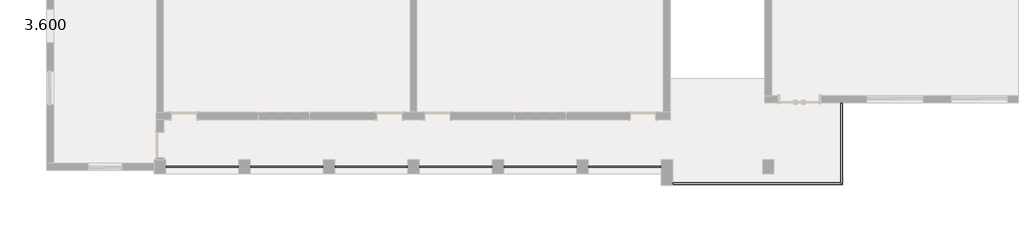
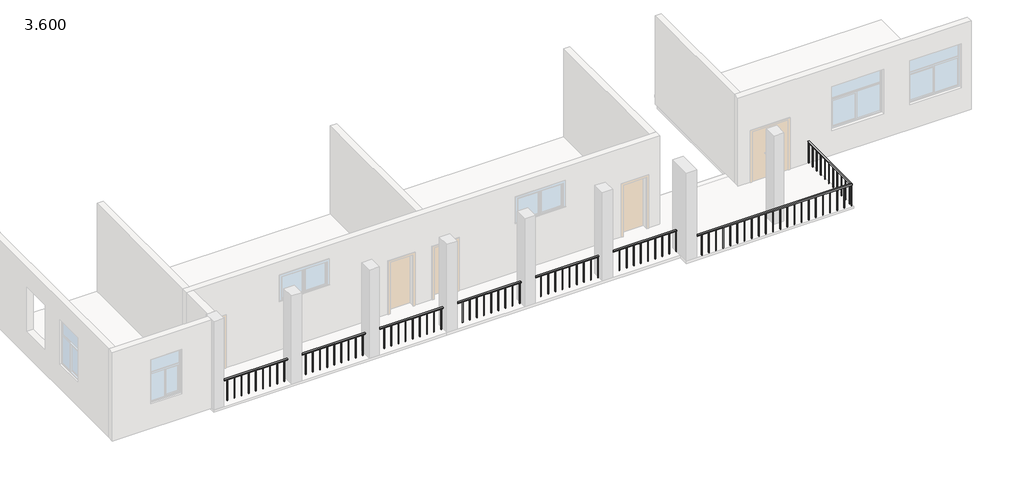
# One storey, part 2 of 2: 2 railings.
"""IFC4 building model written with IfcOpenShell, lengths in millimetres."""

import ifcopenshell
import ifcopenshell.guid

model = None  # the IFC model being written
_history = None  # IfcOwnerHistory: only IFC2X3 demands one
_inside = {}  # id of a spatial element -> (the spatial element, [elements in it])
_under = {}  # id of a project, library or spatial element -> (it, [spatial elements below it])
_declared = {}  # id of a project -> (the project, [libraries it declares])
_typed = {}  # id of a type object -> (the type object, [elements of that type])
_made_of = {}  # id of a material, layer set ... -> (it, [elements and type objects made of it])


def new_model(schema):
    """Start an empty IFC model of exactly this schema.

    Asked for "IFC4X3", IfcOpenShell would pick the latest addendum, in which some entities
    have other attributes; the version numbers below select the first issue.
    IFC2X3 requires an IfcOwnerHistory on every rooted entity: one is made here for all.
    """
    global model, _history
    if schema == "IFC4X3":
        model = ifcopenshell.file(schema_version=(4, 3, 0, 0))
    else:
        model = ifcopenshell.file(schema=schema)
    _inside.clear()
    _under.clear()
    _declared.clear()
    _typed.clear()
    _made_of.clear()
    _history = None
    if model.schema == "IFC2X3":
        org = make("IfcOrganization", Name="unknown")
        user = make(
            "IfcPersonAndOrganization",
            ThePerson=make("IfcPerson", FamilyName="unknown"),
            TheOrganization=org,
        )
        app = make(
            "IfcApplication",
            ApplicationDeveloper=org,
            Version="unknown",
            ApplicationFullName="unknown",
            ApplicationIdentifier="unknown",
        )
        _history = make(
            "IfcOwnerHistory",
            OwningUser=user,
            OwningApplication=app,
            ChangeAction="ADDED",
            CreationDate=0,
        )
    return model


def make(cls, **values):
    """One entity of the class cls with the attributes given. An attribute that is None is left unset."""
    return model.create_entity(
        cls, **{name: value for name, value in values.items() if value is not None}
    )


def rooted(cls, **values):
    """An entity with a GlobalId (a new one), such as an element, a storey or a relation."""
    return make(cls, GlobalId=ifcopenshell.guid.new(), OwnerHistory=_history, **values)


def si_unit(unit_type, name, prefix=None):
    """IfcSIUnit, for example si_unit("LENGTHUNIT", "METRE", prefix="MILLI")."""
    return make("IfcSIUnit", UnitType=unit_type, Prefix=prefix, Name=name)


def assignment(units):
    """IfcUnitAssignment: the units of a project."""
    return None if units is None else make("IfcUnitAssignment", Units=units)


def point(xyz):
    """IfcCartesianPoint."""
    return None if xyz is None else make("IfcCartesianPoint", Coordinates=xyz)


def direction(xyz):
    """IfcDirection."""
    return None if xyz is None else make("IfcDirection", DirectionRatios=xyz)


def frame(location, z_axis=None, x_axis=None):
    """IfcAxis2Placement3D, a coordinate frame: its origin and axes. An axis left out is left unset."""
    return make(
        "IfcAxis2Placement3D",
        Location=point(location),
        Axis=direction(z_axis),
        RefDirection=direction(x_axis),
    )


def origin():
    """The frame at (0, 0, 0) with its axes left unset."""
    return frame((0.0, 0.0, 0.0))


def place(relative_to, where):
    """IfcLocalPlacement: puts the frame where relative to a parent placement (None: the world)."""
    return make(
        "IfcLocalPlacement", PlacementRelTo=relative_to, RelativePlacement=where
    )


def context(
    kind, dimensions, precision=None, world=None, true_north=None, identifier=None
):
    """IfcGeometricRepresentationContext, for example the 3D "Model" context."""
    return make(
        "IfcGeometricRepresentationContext",
        ContextIdentifier=identifier,
        ContextType=kind,
        CoordinateSpaceDimension=dimensions,
        Precision=precision,
        WorldCoordinateSystem=world,
        TrueNorth=true_north,
    )


def project(units=None, contexts=None):
    """IfcProject with its units and contexts."""
    return rooted(
        "IfcProject",
        Name="project",
        RepresentationContexts=contexts,
        UnitsInContext=assignment(units),
    )


def spatial(cls, under=None, at=None, **own):
    """A site, building, storey or space (cls), placed at a placement, below another one or the project."""
    s = rooted(cls, ObjectPlacement=at, **own)
    if under is not None:
        _under.setdefault(under.id(), (under, []))[1].append(s)
    return s


def polyline(points):
    """IfcPolyline through the points."""
    return make("IfcPolyline", Points=[point(p) for p in points])


def outline(outer, holes=None, kind="AREA"):
    """IfcArbitraryClosedProfileDef: a profile drawn as a closed curve; with holes, ...WithVoids."""
    if holes is None:
        return make("IfcArbitraryClosedProfileDef", ProfileType=kind, OuterCurve=outer)
    return make(
        "IfcArbitraryProfileDefWithVoids",
        ProfileType=kind,
        OuterCurve=outer,
        InnerCurves=holes,
    )


def extrude(swept, where, along, depth):
    """IfcExtrudedAreaSolid: the profile swept, set in the frame where, extruded along a direction by depth."""
    return make(
        "IfcExtrudedAreaSolid",
        SweptArea=swept,
        Position=where,
        ExtrudedDirection=direction(along),
        Depth=depth,
    )


def faces_of(points, faces, orient=None, outer=None):
    """IfcFace entities. A face is a list of loops; a loop is a list of indices into points, from 0.

    orient and outer hold one flag for each loop. By default every Orientation is true, the
    first loop of a face is its IfcFaceOuterBound and the others are IfcFaceBound.
    """
    made = []
    for i, loops in enumerate(faces):
        bounds = []
        for j, loop in enumerate(loops):
            is_outer = j == 0 if outer is None else outer[i][j]
            bounds.append(
                make(
                    "IfcFaceOuterBound" if is_outer else "IfcFaceBound",
                    Bound=make("IfcPolyLoop", Polygon=[points[k] for k in loop]),
                    Orientation=True if orient is None else orient[i][j],
                )
            )
        made.append(make("IfcFace", Bounds=bounds))
    return made


def faceted_brep(points, faces, orient=None, outer=None, voids=None):
    """IfcFacetedBrep: a solid bounded by flat faces; with voids (closed shells), ...WithVoids."""
    shared = [point(p) for p in points]
    hull = make("IfcClosedShell", CfsFaces=faces_of(shared, faces, orient, outer))
    if voids is None:
        return make("IfcFacetedBrep", Outer=hull)
    return make(
        "IfcFacetedBrepWithVoids",
        Outer=hull,
        Voids=[
            make(cls, CfsFaces=faces_of(shared, fs, o, b)) for cls, fs, o, b in voids
        ],
    )


def shape(context_of_items, identifier, shape_type, items):
    """IfcShapeRepresentation: the items that make up one representation, for example the "Body"."""
    return make(
        "IfcShapeRepresentation",
        ContextOfItems=context_of_items,
        RepresentationIdentifier=identifier,
        RepresentationType=shape_type,
        Items=items,
    )


def made_of(thing, what):
    """Note that an element or type object is made of a material, layer set ...; save() writes the relation."""
    if what is not None:
        _made_of.setdefault(what.id(), (what, []))[1].append(thing)
    return thing


def element(
    cls,
    number,
    at=None,
    inside=None,
    cuts=None,
    type_object=None,
    material=None,
    context=None,
    identifier="Body",
    shape_type=None,
    held_by="IfcProductDefinitionShape",
    body=None,
    shapes=None,
    **own,
):
    """One element of the class cls, such as IfcWall. Its Tag is "e" and its number.

    at: its placement. inside: the storey or other place that contains it. cuts: it is an
    opening in that element (IfcRelVoidsElement). A single representation is given by context,
    identifier, shape_type and body (its items); several are given by shapes. held_by: the class
    of the entity that holds the representations. save() writes the other relations.
    """
    e = rooted(cls, Tag="e%d" % number, ObjectPlacement=at, **own)
    if body is not None:
        shapes = [shape(context, identifier, shape_type, body)]
    if shapes is not None:
        e.Representation = make(held_by, Representations=shapes)
    if inside is not None:
        _inside.setdefault(inside.id(), (inside, []))[1].append(e)
    if cuts is not None:
        rooted(
            "IfcRelVoidsElement", RelatingBuildingElement=cuts, RelatedOpeningElement=e
        )
    if type_object is not None:
        _typed.setdefault(type_object.id(), (type_object, []))[1].append(e)
    return made_of(e, material)


def aggregate(whole, parts):
    """IfcRelAggregates: a whole, such as a stair, and the parts it consists of."""
    return rooted("IfcRelAggregates", RelatingObject=whole, RelatedObjects=parts)


def save(model, path):
    """Write the relations noted so far, then the file.

    IfcRelAggregates (storeys below a building ...), IfcRelContainedInSpatialStructure (elements
    in a storey), IfcRelDefinesByType, IfcRelAssociatesMaterial and IfcRelDeclares: one each for
    every whole, place, type object, material and project.
    """
    for whole, parts in _under.values():
        aggregate(whole, parts)
    for where, things in _inside.values():
        rooted(
            "IfcRelContainedInSpatialStructure",
            RelatedElements=things,
            RelatingStructure=where,
        )
    for kind, things in _typed.values():
        rooted("IfcRelDefinesByType", RelatedObjects=things, RelatingType=kind)
    for what, things in _made_of.values():
        rooted("IfcRelAssociatesMaterial", RelatedObjects=things, RelatingMaterial=what)
    for by, libraries in _declared.values():
        rooted("IfcRelDeclares", RelatingContext=by, RelatedDefinitions=libraries)
    model.write(path)


model = new_model("IFC4")

# Units and contexts
model_context = context("Model", 3, world=origin())
ifc_project = project(units=[si_unit("LENGTHUNIT", "METRE", prefix="MILLI")], contexts=[model_context])

# Site, building, storey
site = spatial("IfcSite", under=ifc_project)
building = spatial("IfcBuilding", under=site)
storey = spatial("IfcBuildingStorey", under=building, Name="3.600", Elevation=3600.0)

# Railings
placement = place(None, origin())
element("IfcRailing", 1, ObjectType="900mm", at=placement, inside=storey, context=model_context, shape_type="SweptSolid", body=[
    extrude(outline(polyline([(-19259.1214542, -25963.2373497), (-19259.1214542, -25913.2373497), (-1659.1214542, -25913.2373497), (-1659.1214542, -25963.2373497), (-19259.1214542, -25963.2373497)])), frame((0.0, 0.0, 4450.0), z_axis=(0.0, 0.0, 1.0), x_axis=(1.0, 0.0, 0.0)), (0.0, 0.0, 1.0), 50.0),
    extrude(outline(polyline([(-1944.1214542, -25948.2373497), (-1944.1214542, -25928.2373497), (-1924.1214542, -25928.2373497), (-1924.1214542, -25948.2373497), (-1944.1214542, -25948.2373497)])), frame((0.0, 0.0, 3600.0), z_axis=(0.0, 0.0, 1.0), x_axis=(1.0, 0.0, 0.0)), (0.0, 0.0, 1.0), 850.0),
    extrude(outline(polyline([(-2219.1214542, -25948.2373497), (-2219.1214542, -25928.2373497), (-2199.1214542, -25928.2373497), (-2199.1214542, -25948.2373497), (-2219.1214542, -25948.2373497)])), frame((0.0, 0.0, 3600.0), z_axis=(0.0, 0.0, 1.0), x_axis=(1.0, 0.0, 0.0)), (0.0, 0.0, 1.0), 850.0),
    extrude(outline(polyline([(-2494.1214542, -25948.2373497), (-2494.1214542, -25928.2373497), (-2474.1214542, -25928.2373497), (-2474.1214542, -25948.2373497), (-2494.1214542, -25948.2373497)])), frame((0.0, 0.0, 3600.0), z_axis=(0.0, 0.0, 1.0), x_axis=(1.0, 0.0, 0.0)), (0.0, 0.0, 1.0), 850.0),
    extrude(outline(polyline([(-2769.1214542, -25948.2373497), (-2769.1214542, -25928.2373497), (-2749.1214542, -25928.2373497), (-2749.1214542, -25948.2373497), (-2769.1214542, -25948.2373497)])), frame((0.0, 0.0, 3600.0), z_axis=(0.0, 0.0, 1.0), x_axis=(1.0, 0.0, 0.0)), (0.0, 0.0, 1.0), 850.0),
    extrude(outline(polyline([(-3044.1214542, -25948.2373497), (-3044.1214542, -25928.2373497), (-3024.1214542, -25928.2373497), (-3024.1214542, -25948.2373497), (-3044.1214542, -25948.2373497)])), frame((0.0, 0.0, 3600.0), z_axis=(0.0, 0.0, 1.0), x_axis=(1.0, 0.0, 0.0)), (0.0, 0.0, 1.0), 850.0),
    extrude(outline(polyline([(-3319.1214542, -25948.2373497), (-3319.1214542, -25928.2373497), (-3299.1214542, -25928.2373497), (-3299.1214542, -25948.2373497), (-3319.1214542, -25948.2373497)])), frame((0.0, 0.0, 3600.0), z_axis=(0.0, 0.0, 1.0), x_axis=(1.0, 0.0, 0.0)), (0.0, 0.0, 1.0), 850.0),
    extrude(outline(polyline([(-3594.1214542, -25948.2373497), (-3594.1214542, -25928.2373497), (-3574.1214542, -25928.2373497), (-3574.1214542, -25948.2373497), (-3594.1214542, -25948.2373497)])), frame((0.0, 0.0, 3600.0), z_axis=(0.0, 0.0, 1.0), x_axis=(1.0, 0.0, 0.0)), (0.0, 0.0, 1.0), 850.0),
    extrude(outline(polyline([(-3869.1214542, -25948.2373497), (-3869.1214542, -25928.2373497), (-3849.1214542, -25928.2373497), (-3849.1214542, -25948.2373497), (-3869.1214542, -25948.2373497)])), frame((0.0, 0.0, 3600.0), z_axis=(0.0, 0.0, 1.0), x_axis=(1.0, 0.0, 0.0)), (0.0, 0.0, 1.0), 850.0),
    extrude(outline(polyline([(-4144.1214542, -25948.2373497), (-4144.1214542, -25928.2373497), (-4124.1214542, -25928.2373497), (-4124.1214542, -25948.2373497), (-4144.1214542, -25948.2373497)])), frame((0.0, 0.0, 3600.0), z_axis=(0.0, 0.0, 1.0), x_axis=(1.0, 0.0, 0.0)), (0.0, 0.0, 1.0), 850.0),
    extrude(outline(polyline([(-4419.1214542, -25948.2373497), (-4419.1214542, -25928.2373497), (-4399.1214542, -25928.2373497), (-4399.1214542, -25948.2373497), (-4419.1214542, -25948.2373497)])), frame((0.0, 0.0, 3600.0), z_axis=(0.0, 0.0, 1.0), x_axis=(1.0, 0.0, 0.0)), (0.0, 0.0, 1.0), 850.0),
    extrude(outline(polyline([(-4694.1214542, -25948.2373497), (-4694.1214542, -25928.2373497), (-4674.1214542, -25928.2373497), (-4674.1214542, -25948.2373497), (-4694.1214542, -25948.2373497)])), frame((0.0, 0.0, 3600.0), z_axis=(0.0, 0.0, 1.0), x_axis=(1.0, 0.0, 0.0)), (0.0, 0.0, 1.0), 850.0),
    extrude(outline(polyline([(-4969.1214542, -25948.2373497), (-4969.1214542, -25928.2373497), (-4949.1214542, -25928.2373497), (-4949.1214542, -25948.2373497), (-4969.1214542, -25948.2373497)])), frame((0.0, 0.0, 3600.0), z_axis=(0.0, 0.0, 1.0), x_axis=(1.0, 0.0, 0.0)), (0.0, 0.0, 1.0), 850.0),
    extrude(outline(polyline([(-5244.1214542, -25948.2373497), (-5244.1214542, -25928.2373497), (-5224.1214542, -25928.2373497), (-5224.1214542, -25948.2373497), (-5244.1214542, -25948.2373497)])), frame((0.0, 0.0, 3600.0), z_axis=(0.0, 0.0, 1.0), x_axis=(1.0, 0.0, 0.0)), (0.0, 0.0, 1.0), 850.0),
    extrude(outline(polyline([(-5519.1214542, -25948.2373497), (-5519.1214542, -25928.2373497), (-5499.1214542, -25928.2373497), (-5499.1214542, -25948.2373497), (-5519.1214542, -25948.2373497)])), frame((0.0, 0.0, 3600.0), z_axis=(0.0, 0.0, 1.0), x_axis=(1.0, 0.0, 0.0)), (0.0, 0.0, 1.0), 850.0),
    extrude(outline(polyline([(-5794.1214542, -25948.2373497), (-5794.1214542, -25928.2373497), (-5774.1214542, -25928.2373497), (-5774.1214542, -25948.2373497), (-5794.1214542, -25948.2373497)])), frame((0.0, 0.0, 3600.0), z_axis=(0.0, 0.0, 1.0), x_axis=(1.0, 0.0, 0.0)), (0.0, 0.0, 1.0), 850.0),
    extrude(outline(polyline([(-6069.1214542, -25948.2373497), (-6069.1214542, -25928.2373497), (-6049.1214542, -25928.2373497), (-6049.1214542, -25948.2373497), (-6069.1214542, -25948.2373497)])), frame((0.0, 0.0, 3600.0), z_axis=(0.0, 0.0, 1.0), x_axis=(1.0, 0.0, 0.0)), (0.0, 0.0, 1.0), 850.0),
    extrude(outline(polyline([(-6344.1214542, -25948.2373497), (-6344.1214542, -25928.2373497), (-6324.1214542, -25928.2373497), (-6324.1214542, -25948.2373497), (-6344.1214542, -25948.2373497)])), frame((0.0, 0.0, 3600.0), z_axis=(0.0, 0.0, 1.0), x_axis=(1.0, 0.0, 0.0)), (0.0, 0.0, 1.0), 850.0),
    extrude(outline(polyline([(-6619.1214542, -25948.2373497), (-6619.1214542, -25928.2373497), (-6599.1214542, -25928.2373497), (-6599.1214542, -25948.2373497), (-6619.1214542, -25948.2373497)])), frame((0.0, 0.0, 3600.0), z_axis=(0.0, 0.0, 1.0), x_axis=(1.0, 0.0, 0.0)), (0.0, 0.0, 1.0), 850.0),
    extrude(outline(polyline([(-6894.1214542, -25948.2373497), (-6894.1214542, -25928.2373497), (-6874.1214542, -25928.2373497), (-6874.1214542, -25948.2373497), (-6894.1214542, -25948.2373497)])), frame((0.0, 0.0, 3600.0), z_axis=(0.0, 0.0, 1.0), x_axis=(1.0, 0.0, 0.0)), (0.0, 0.0, 1.0), 850.0),
    extrude(outline(polyline([(-7169.1214542, -25948.2373497), (-7169.1214542, -25928.2373497), (-7149.1214542, -25928.2373497), (-7149.1214542, -25948.2373497), (-7169.1214542, -25948.2373497)])), frame((0.0, 0.0, 3600.0), z_axis=(0.0, 0.0, 1.0), x_axis=(1.0, 0.0, 0.0)), (0.0, 0.0, 1.0), 850.0),
    extrude(outline(polyline([(-7444.1214542, -25948.2373497), (-7444.1214542, -25928.2373497), (-7424.1214542, -25928.2373497), (-7424.1214542, -25948.2373497), (-7444.1214542, -25948.2373497)])), frame((0.0, 0.0, 3600.0), z_axis=(0.0, 0.0, 1.0), x_axis=(1.0, 0.0, 0.0)), (0.0, 0.0, 1.0), 850.0),
    extrude(outline(polyline([(-7719.1214542, -25948.2373497), (-7719.1214542, -25928.2373497), (-7699.1214542, -25928.2373497), (-7699.1214542, -25948.2373497), (-7719.1214542, -25948.2373497)])), frame((0.0, 0.0, 3600.0), z_axis=(0.0, 0.0, 1.0), x_axis=(1.0, 0.0, 0.0)), (0.0, 0.0, 1.0), 850.0),
    extrude(outline(polyline([(-7994.1214542, -25948.2373497), (-7994.1214542, -25928.2373497), (-7974.1214542, -25928.2373497), (-7974.1214542, -25948.2373497), (-7994.1214542, -25948.2373497)])), frame((0.0, 0.0, 3600.0), z_axis=(0.0, 0.0, 1.0), x_axis=(1.0, 0.0, 0.0)), (0.0, 0.0, 1.0), 850.0),
    extrude(outline(polyline([(-8269.1214542, -25948.2373497), (-8269.1214542, -25928.2373497), (-8249.1214542, -25928.2373497), (-8249.1214542, -25948.2373497), (-8269.1214542, -25948.2373497)])), frame((0.0, 0.0, 3600.0), z_axis=(0.0, 0.0, 1.0), x_axis=(1.0, 0.0, 0.0)), (0.0, 0.0, 1.0), 850.0),
    extrude(outline(polyline([(-8544.1214542, -25948.2373497), (-8544.1214542, -25928.2373497), (-8524.1214542, -25928.2373497), (-8524.1214542, -25948.2373497), (-8544.1214542, -25948.2373497)])), frame((0.0, 0.0, 3600.0), z_axis=(0.0, 0.0, 1.0), x_axis=(1.0, 0.0, 0.0)), (0.0, 0.0, 1.0), 850.0),
    extrude(outline(polyline([(-8819.1214542, -25948.2373497), (-8819.1214542, -25928.2373497), (-8799.1214542, -25928.2373497), (-8799.1214542, -25948.2373497), (-8819.1214542, -25948.2373497)])), frame((0.0, 0.0, 3600.0), z_axis=(0.0, 0.0, 1.0), x_axis=(1.0, 0.0, 0.0)), (0.0, 0.0, 1.0), 850.0),
    extrude(outline(polyline([(-9094.1214542, -25948.2373497), (-9094.1214542, -25928.2373497), (-9074.1214542, -25928.2373497), (-9074.1214542, -25948.2373497), (-9094.1214542, -25948.2373497)])), frame((0.0, 0.0, 3600.0), z_axis=(0.0, 0.0, 1.0), x_axis=(1.0, 0.0, 0.0)), (0.0, 0.0, 1.0), 850.0),
    extrude(outline(polyline([(-9369.1214542, -25948.2373497), (-9369.1214542, -25928.2373497), (-9349.1214542, -25928.2373497), (-9349.1214542, -25948.2373497), (-9369.1214542, -25948.2373497)])), frame((0.0, 0.0, 3600.0), z_axis=(0.0, 0.0, 1.0), x_axis=(1.0, 0.0, 0.0)), (0.0, 0.0, 1.0), 850.0),
    extrude(outline(polyline([(-9644.1214542, -25948.2373497), (-9644.1214542, -25928.2373497), (-9624.1214542, -25928.2373497), (-9624.1214542, -25948.2373497), (-9644.1214542, -25948.2373497)])), frame((0.0, 0.0, 3600.0), z_axis=(0.0, 0.0, 1.0), x_axis=(1.0, 0.0, 0.0)), (0.0, 0.0, 1.0), 850.0),
    extrude(outline(polyline([(-9919.1214542, -25948.2373497), (-9919.1214542, -25928.2373497), (-9899.1214542, -25928.2373497), (-9899.1214542, -25948.2373497), (-9919.1214542, -25948.2373497)])), frame((0.0, 0.0, 3600.0), z_axis=(0.0, 0.0, 1.0), x_axis=(1.0, 0.0, 0.0)), (0.0, 0.0, 1.0), 850.0),
    extrude(outline(polyline([(-10194.1214542, -25948.2373497), (-10194.1214542, -25928.2373497), (-10174.1214542, -25928.2373497), (-10174.1214542, -25948.2373497), (-10194.1214542, -25948.2373497)])), frame((0.0, 0.0, 3600.0), z_axis=(0.0, 0.0, 1.0), x_axis=(1.0, 0.0, 0.0)), (0.0, 0.0, 1.0), 850.0),
    extrude(outline(polyline([(-10469.1214542, -25948.2373497), (-10469.1214542, -25928.2373497), (-10449.1214542, -25928.2373497), (-10449.1214542, -25948.2373497), (-10469.1214542, -25948.2373497)])), frame((0.0, 0.0, 3600.0), z_axis=(0.0, 0.0, 1.0), x_axis=(1.0, 0.0, 0.0)), (0.0, 0.0, 1.0), 850.0),
    extrude(outline(polyline([(-10744.1214542, -25948.2373497), (-10744.1214542, -25928.2373497), (-10724.1214542, -25928.2373497), (-10724.1214542, -25948.2373497), (-10744.1214542, -25948.2373497)])), frame((0.0, 0.0, 3600.0), z_axis=(0.0, 0.0, 1.0), x_axis=(1.0, 0.0, 0.0)), (0.0, 0.0, 1.0), 850.0),
    extrude(outline(polyline([(-11019.1214542, -25948.2373497), (-11019.1214542, -25928.2373497), (-10999.1214542, -25928.2373497), (-10999.1214542, -25948.2373497), (-11019.1214542, -25948.2373497)])), frame((0.0, 0.0, 3600.0), z_axis=(0.0, 0.0, 1.0), x_axis=(1.0, 0.0, 0.0)), (0.0, 0.0, 1.0), 850.0),
    extrude(outline(polyline([(-11294.1214542, -25948.2373497), (-11294.1214542, -25928.2373497), (-11274.1214542, -25928.2373497), (-11274.1214542, -25948.2373497), (-11294.1214542, -25948.2373497)])), frame((0.0, 0.0, 3600.0), z_axis=(0.0, 0.0, 1.0), x_axis=(1.0, 0.0, 0.0)), (0.0, 0.0, 1.0), 850.0),
    extrude(outline(polyline([(-11569.1214542, -25948.2373497), (-11569.1214542, -25928.2373497), (-11549.1214542, -25928.2373497), (-11549.1214542, -25948.2373497), (-11569.1214542, -25948.2373497)])), frame((0.0, 0.0, 3600.0), z_axis=(0.0, 0.0, 1.0), x_axis=(1.0, 0.0, 0.0)), (0.0, 0.0, 1.0), 850.0),
    extrude(outline(polyline([(-11844.1214542, -25948.2373497), (-11844.1214542, -25928.2373497), (-11824.1214542, -25928.2373497), (-11824.1214542, -25948.2373497), (-11844.1214542, -25948.2373497)])), frame((0.0, 0.0, 3600.0), z_axis=(0.0, 0.0, 1.0), x_axis=(1.0, 0.0, 0.0)), (0.0, 0.0, 1.0), 850.0),
    extrude(outline(polyline([(-12119.1214542, -25948.2373497), (-12119.1214542, -25928.2373497), (-12099.1214542, -25928.2373497), (-12099.1214542, -25948.2373497), (-12119.1214542, -25948.2373497)])), frame((0.0, 0.0, 3600.0), z_axis=(0.0, 0.0, 1.0), x_axis=(1.0, 0.0, 0.0)), (0.0, 0.0, 1.0), 850.0),
    extrude(outline(polyline([(-12394.1214542, -25948.2373497), (-12394.1214542, -25928.2373497), (-12374.1214542, -25928.2373497), (-12374.1214542, -25948.2373497), (-12394.1214542, -25948.2373497)])), frame((0.0, 0.0, 3600.0), z_axis=(0.0, 0.0, 1.0), x_axis=(1.0, 0.0, 0.0)), (0.0, 0.0, 1.0), 850.0),
    extrude(outline(polyline([(-12669.1214542, -25948.2373497), (-12669.1214542, -25928.2373497), (-12649.1214542, -25928.2373497), (-12649.1214542, -25948.2373497), (-12669.1214542, -25948.2373497)])), frame((0.0, 0.0, 3600.0), z_axis=(0.0, 0.0, 1.0), x_axis=(1.0, 0.0, 0.0)), (0.0, 0.0, 1.0), 850.0),
    extrude(outline(polyline([(-12944.1214542, -25948.2373497), (-12944.1214542, -25928.2373497), (-12924.1214542, -25928.2373497), (-12924.1214542, -25948.2373497), (-12944.1214542, -25948.2373497)])), frame((0.0, 0.0, 3600.0), z_axis=(0.0, 0.0, 1.0), x_axis=(1.0, 0.0, 0.0)), (0.0, 0.0, 1.0), 850.0),
    extrude(outline(polyline([(-13219.1214542, -25948.2373497), (-13219.1214542, -25928.2373497), (-13199.1214542, -25928.2373497), (-13199.1214542, -25948.2373497), (-13219.1214542, -25948.2373497)])), frame((0.0, 0.0, 3600.0), z_axis=(0.0, 0.0, 1.0), x_axis=(1.0, 0.0, 0.0)), (0.0, 0.0, 1.0), 850.0),
    extrude(outline(polyline([(-13494.1214542, -25948.2373497), (-13494.1214542, -25928.2373497), (-13474.1214542, -25928.2373497), (-13474.1214542, -25948.2373497), (-13494.1214542, -25948.2373497)])), frame((0.0, 0.0, 3600.0), z_axis=(0.0, 0.0, 1.0), x_axis=(1.0, 0.0, 0.0)), (0.0, 0.0, 1.0), 850.0),
    extrude(outline(polyline([(-13769.1214542, -25948.2373497), (-13769.1214542, -25928.2373497), (-13749.1214542, -25928.2373497), (-13749.1214542, -25948.2373497), (-13769.1214542, -25948.2373497)])), frame((0.0, 0.0, 3600.0), z_axis=(0.0, 0.0, 1.0), x_axis=(1.0, 0.0, 0.0)), (0.0, 0.0, 1.0), 850.0),
    extrude(outline(polyline([(-14044.1214542, -25948.2373497), (-14044.1214542, -25928.2373497), (-14024.1214542, -25928.2373497), (-14024.1214542, -25948.2373497), (-14044.1214542, -25948.2373497)])), frame((0.0, 0.0, 3600.0), z_axis=(0.0, 0.0, 1.0), x_axis=(1.0, 0.0, 0.0)), (0.0, 0.0, 1.0), 850.0),
    extrude(outline(polyline([(-14319.1214542, -25948.2373497), (-14319.1214542, -25928.2373497), (-14299.1214542, -25928.2373497), (-14299.1214542, -25948.2373497), (-14319.1214542, -25948.2373497)])), frame((0.0, 0.0, 3600.0), z_axis=(0.0, 0.0, 1.0), x_axis=(1.0, 0.0, 0.0)), (0.0, 0.0, 1.0), 850.0),
    extrude(outline(polyline([(-14594.1214542, -25948.2373497), (-14594.1214542, -25928.2373497), (-14574.1214542, -25928.2373497), (-14574.1214542, -25948.2373497), (-14594.1214542, -25948.2373497)])), frame((0.0, 0.0, 3600.0), z_axis=(0.0, 0.0, 1.0), x_axis=(1.0, 0.0, 0.0)), (0.0, 0.0, 1.0), 850.0),
    extrude(outline(polyline([(-14869.1214542, -25948.2373497), (-14869.1214542, -25928.2373497), (-14849.1214542, -25928.2373497), (-14849.1214542, -25948.2373497), (-14869.1214542, -25948.2373497)])), frame((0.0, 0.0, 3600.0), z_axis=(0.0, 0.0, 1.0), x_axis=(1.0, 0.0, 0.0)), (0.0, 0.0, 1.0), 850.0),
    extrude(outline(polyline([(-15144.1214542, -25948.2373497), (-15144.1214542, -25928.2373497), (-15124.1214542, -25928.2373497), (-15124.1214542, -25948.2373497), (-15144.1214542, -25948.2373497)])), frame((0.0, 0.0, 3600.0), z_axis=(0.0, 0.0, 1.0), x_axis=(1.0, 0.0, 0.0)), (0.0, 0.0, 1.0), 850.0),
    extrude(outline(polyline([(-15419.1214542, -25948.2373497), (-15419.1214542, -25928.2373497), (-15399.1214542, -25928.2373497), (-15399.1214542, -25948.2373497), (-15419.1214542, -25948.2373497)])), frame((0.0, 0.0, 3600.0), z_axis=(0.0, 0.0, 1.0), x_axis=(1.0, 0.0, 0.0)), (0.0, 0.0, 1.0), 850.0),
    extrude(outline(polyline([(-15694.1214542, -25948.2373497), (-15694.1214542, -25928.2373497), (-15674.1214542, -25928.2373497), (-15674.1214542, -25948.2373497), (-15694.1214542, -25948.2373497)])), frame((0.0, 0.0, 3600.0), z_axis=(0.0, 0.0, 1.0), x_axis=(1.0, 0.0, 0.0)), (0.0, 0.0, 1.0), 850.0),
    extrude(outline(polyline([(-15969.1214542, -25948.2373497), (-15969.1214542, -25928.2373497), (-15949.1214542, -25928.2373497), (-15949.1214542, -25948.2373497), (-15969.1214542, -25948.2373497)])), frame((0.0, 0.0, 3600.0), z_axis=(0.0, 0.0, 1.0), x_axis=(1.0, 0.0, 0.0)), (0.0, 0.0, 1.0), 850.0),
    extrude(outline(polyline([(-16244.1214542, -25948.2373497), (-16244.1214542, -25928.2373497), (-16224.1214542, -25928.2373497), (-16224.1214542, -25948.2373497), (-16244.1214542, -25948.2373497)])), frame((0.0, 0.0, 3600.0), z_axis=(0.0, 0.0, 1.0), x_axis=(1.0, 0.0, 0.0)), (0.0, 0.0, 1.0), 850.0),
    extrude(outline(polyline([(-16519.1214542, -25948.2373497), (-16519.1214542, -25928.2373497), (-16499.1214542, -25928.2373497), (-16499.1214542, -25948.2373497), (-16519.1214542, -25948.2373497)])), frame((0.0, 0.0, 3600.0), z_axis=(0.0, 0.0, 1.0), x_axis=(1.0, 0.0, 0.0)), (0.0, 0.0, 1.0), 850.0),
    extrude(outline(polyline([(-16794.1214542, -25948.2373497), (-16794.1214542, -25928.2373497), (-16774.1214542, -25928.2373497), (-16774.1214542, -25948.2373497), (-16794.1214542, -25948.2373497)])), frame((0.0, 0.0, 3600.0), z_axis=(0.0, 0.0, 1.0), x_axis=(1.0, 0.0, 0.0)), (0.0, 0.0, 1.0), 850.0),
    extrude(outline(polyline([(-17069.1214542, -25948.2373497), (-17069.1214542, -25928.2373497), (-17049.1214542, -25928.2373497), (-17049.1214542, -25948.2373497), (-17069.1214542, -25948.2373497)])), frame((0.0, 0.0, 3600.0), z_axis=(0.0, 0.0, 1.0), x_axis=(1.0, 0.0, 0.0)), (0.0, 0.0, 1.0), 850.0),
    extrude(outline(polyline([(-17344.1214542, -25948.2373497), (-17344.1214542, -25928.2373497), (-17324.1214542, -25928.2373497), (-17324.1214542, -25948.2373497), (-17344.1214542, -25948.2373497)])), frame((0.0, 0.0, 3600.0), z_axis=(0.0, 0.0, 1.0), x_axis=(1.0, 0.0, 0.0)), (0.0, 0.0, 1.0), 850.0),
    extrude(outline(polyline([(-17619.1214542, -25948.2373497), (-17619.1214542, -25928.2373497), (-17599.1214542, -25928.2373497), (-17599.1214542, -25948.2373497), (-17619.1214542, -25948.2373497)])), frame((0.0, 0.0, 3600.0), z_axis=(0.0, 0.0, 1.0), x_axis=(1.0, 0.0, 0.0)), (0.0, 0.0, 1.0), 850.0),
    extrude(outline(polyline([(-17894.1214542, -25948.2373497), (-17894.1214542, -25928.2373497), (-17874.1214542, -25928.2373497), (-17874.1214542, -25948.2373497), (-17894.1214542, -25948.2373497)])), frame((0.0, 0.0, 3600.0), z_axis=(0.0, 0.0, 1.0), x_axis=(1.0, 0.0, 0.0)), (0.0, 0.0, 1.0), 850.0),
    extrude(outline(polyline([(-18169.1214542, -25948.2373497), (-18169.1214542, -25928.2373497), (-18149.1214542, -25928.2373497), (-18149.1214542, -25948.2373497), (-18169.1214542, -25948.2373497)])), frame((0.0, 0.0, 3600.0), z_axis=(0.0, 0.0, 1.0), x_axis=(1.0, 0.0, 0.0)), (0.0, 0.0, 1.0), 850.0),
    extrude(outline(polyline([(-18444.1214542, -25948.2373497), (-18444.1214542, -25928.2373497), (-18424.1214542, -25928.2373497), (-18424.1214542, -25948.2373497), (-18444.1214542, -25948.2373497)])), frame((0.0, 0.0, 3600.0), z_axis=(0.0, 0.0, 1.0), x_axis=(1.0, 0.0, 0.0)), (0.0, 0.0, 1.0), 850.0),
    extrude(outline(polyline([(-18719.1214542, -25948.2373497), (-18719.1214542, -25928.2373497), (-18699.1214542, -25928.2373497), (-18699.1214542, -25948.2373497), (-18719.1214542, -25948.2373497)])), frame((0.0, 0.0, 3600.0), z_axis=(0.0, 0.0, 1.0), x_axis=(1.0, 0.0, 0.0)), (0.0, 0.0, 1.0), 850.0),
    extrude(outline(polyline([(-18994.1214542, -25948.2373497), (-18994.1214542, -25928.2373497), (-18974.1214542, -25928.2373497), (-18974.1214542, -25948.2373497), (-18994.1214542, -25948.2373497)])), frame((0.0, 0.0, 3600.0), z_axis=(0.0, 0.0, 1.0), x_axis=(1.0, 0.0, 0.0)), (0.0, 0.0, 1.0), 850.0),
    extrude(outline(polyline([(-1679.1214542, -25948.2373497), (-1679.1214542, -25928.2373497), (-1659.1214542, -25928.2373497), (-1659.1214542, -25948.2373497), (-1679.1214542, -25948.2373497)])), frame((0.0, 0.0, 3600.0), z_axis=(0.0, 0.0, 1.0), x_axis=(1.0, 0.0, 0.0)), (0.0, 0.0, 1.0), 850.0),
    extrude(outline(polyline([(-19259.1214542, -25948.2373497), (-19259.1214542, -25928.2373497), (-19239.1214542, -25928.2373497), (-19239.1214542, -25948.2373497), (-19259.1214542, -25948.2373497)])), frame((0.0, 0.0, 3600.0), z_axis=(0.0, 0.0, 1.0), x_axis=(1.0, 0.0, 0.0)), (0.0, 0.0, 1.0), 850.0),
])
element("IfcRailing", 2, ObjectType="900mm", at=placement, inside=storey, context=model_context, shape_type="SolidModel", body=[
    faceted_brep([(4765.8785458, -23668.2373497, 4500.0), (4765.8785458, -23668.2373497, 4450.0), (4715.8785458, -23668.2373497, 4450.0), (4715.8785458, -23668.2373497, 4500.0), (4765.8785458, -26563.2373497, 4500.0), (4765.8785458, -26563.2373497, 4450.0), (4715.8785458, -26513.2373497, 4450.0), (4715.8785458, -26513.2373497, 4500.0), (-1259.1214542, -26563.2373497, 4500.0), (-1259.1214542, -26513.2373497, 4500.0), (-1259.1214542, -26513.2373497, 4450.0), (-1259.1214542, -26563.2373497, 4450.0)], [[[0, 1, 2, 3]], [[1, 0, 4, 5]], [[2, 1, 5, 6]], [[3, 2, 6, 7]], [[0, 3, 7, 4]], [[8, 9, 10, 11]], [[5, 4, 8, 11]], [[6, 5, 11, 10]], [[7, 6, 10, 9]], [[4, 7, 9, 8]]]),
    extrude(outline(polyline([(-1024.1214542, -26528.2373497), (-1024.1214542, -26548.2373497), (-1044.1214542, -26548.2373497), (-1044.1214542, -26528.2373497), (-1024.1214542, -26528.2373497)])), frame((0.0, 0.0, 3600.0), z_axis=(0.0, 0.0, 1.0), x_axis=(1.0, 0.0, 0.0)), (0.0, 0.0, 1.0), 850.0),
    extrude(outline(polyline([(-749.1214542, -26528.2373497), (-749.1214542, -26548.2373497), (-769.1214542, -26548.2373497), (-769.1214542, -26528.2373497), (-749.1214542, -26528.2373497)])), frame((0.0, 0.0, 3600.0), z_axis=(0.0, 0.0, 1.0), x_axis=(1.0, 0.0, 0.0)), (0.0, 0.0, 1.0), 850.0),
    extrude(outline(polyline([(-474.1214542, -26528.2373497), (-474.1214542, -26548.2373497), (-494.1214542, -26548.2373497), (-494.1214542, -26528.2373497), (-474.1214542, -26528.2373497)])), frame((0.0, 0.0, 3600.0), z_axis=(0.0, 0.0, 1.0), x_axis=(1.0, 0.0, 0.0)), (0.0, 0.0, 1.0), 850.0),
    extrude(outline(polyline([(-199.1214542, -26528.2373497), (-199.1214542, -26548.2373497), (-219.1214542, -26548.2373497), (-219.1214542, -26528.2373497), (-199.1214542, -26528.2373497)])), frame((0.0, 0.0, 3600.0), z_axis=(0.0, 0.0, 1.0), x_axis=(1.0, 0.0, 0.0)), (0.0, 0.0, 1.0), 850.0),
    extrude(outline(polyline([(75.8785458, -26528.2373497), (75.8785458, -26548.2373497), (55.8785458, -26548.2373497), (55.8785458, -26528.2373497), (75.8785458, -26528.2373497)])), frame((0.0, 0.0, 3600.0), z_axis=(0.0, 0.0, 1.0), x_axis=(1.0, 0.0, 0.0)), (0.0, 0.0, 1.0), 850.0),
    extrude(outline(polyline([(350.8785458, -26528.2373497), (350.8785458, -26548.2373497), (330.8785458, -26548.2373497), (330.8785458, -26528.2373497), (350.8785458, -26528.2373497)])), frame((0.0, 0.0, 3600.0), z_axis=(0.0, 0.0, 1.0), x_axis=(1.0, 0.0, 0.0)), (0.0, 0.0, 1.0), 850.0),
    extrude(outline(polyline([(625.8785458, -26528.2373497), (625.8785458, -26548.2373497), (605.8785458, -26548.2373497), (605.8785458, -26528.2373497), (625.8785458, -26528.2373497)])), frame((0.0, 0.0, 3600.0), z_axis=(0.0, 0.0, 1.0), x_axis=(1.0, 0.0, 0.0)), (0.0, 0.0, 1.0), 850.0),
    extrude(outline(polyline([(900.8785458, -26528.2373497), (900.8785458, -26548.2373497), (880.8785458, -26548.2373497), (880.8785458, -26528.2373497), (900.8785458, -26528.2373497)])), frame((0.0, 0.0, 3600.0), z_axis=(0.0, 0.0, 1.0), x_axis=(1.0, 0.0, 0.0)), (0.0, 0.0, 1.0), 850.0),
    extrude(outline(polyline([(1175.8785458, -26528.2373497), (1175.8785458, -26548.2373497), (1155.8785458, -26548.2373497), (1155.8785458, -26528.2373497), (1175.8785458, -26528.2373497)])), frame((0.0, 0.0, 3600.0), z_axis=(0.0, 0.0, 1.0), x_axis=(1.0, 0.0, 0.0)), (0.0, 0.0, 1.0), 850.0),
    extrude(outline(polyline([(1450.8785458, -26528.2373497), (1450.8785458, -26548.2373497), (1430.8785458, -26548.2373497), (1430.8785458, -26528.2373497), (1450.8785458, -26528.2373497)])), frame((0.0, 0.0, 3600.0), z_axis=(0.0, 0.0, 1.0), x_axis=(1.0, 0.0, 0.0)), (0.0, 0.0, 1.0), 850.0),
    extrude(outline(polyline([(1725.8785458, -26528.2373497), (1725.8785458, -26548.2373497), (1705.8785458, -26548.2373497), (1705.8785458, -26528.2373497), (1725.8785458, -26528.2373497)])), frame((0.0, 0.0, 3600.0), z_axis=(0.0, 0.0, 1.0), x_axis=(1.0, 0.0, 0.0)), (0.0, 0.0, 1.0), 850.0),
    extrude(outline(polyline([(2000.8785458, -26528.2373497), (2000.8785458, -26548.2373497), (1980.8785458, -26548.2373497), (1980.8785458, -26528.2373497), (2000.8785458, -26528.2373497)])), frame((0.0, 0.0, 3600.0), z_axis=(0.0, 0.0, 1.0), x_axis=(1.0, 0.0, 0.0)), (0.0, 0.0, 1.0), 850.0),
    extrude(outline(polyline([(2275.8785458, -26528.2373497), (2275.8785458, -26548.2373497), (2255.8785458, -26548.2373497), (2255.8785458, -26528.2373497), (2275.8785458, -26528.2373497)])), frame((0.0, 0.0, 3600.0), z_axis=(0.0, 0.0, 1.0), x_axis=(1.0, 0.0, 0.0)), (0.0, 0.0, 1.0), 850.0),
    extrude(outline(polyline([(2550.8785458, -26528.2373497), (2550.8785458, -26548.2373497), (2530.8785458, -26548.2373497), (2530.8785458, -26528.2373497), (2550.8785458, -26528.2373497)])), frame((0.0, 0.0, 3600.0), z_axis=(0.0, 0.0, 1.0), x_axis=(1.0, 0.0, 0.0)), (0.0, 0.0, 1.0), 850.0),
    extrude(outline(polyline([(2825.8785458, -26528.2373497), (2825.8785458, -26548.2373497), (2805.8785458, -26548.2373497), (2805.8785458, -26528.2373497), (2825.8785458, -26528.2373497)])), frame((0.0, 0.0, 3600.0), z_axis=(0.0, 0.0, 1.0), x_axis=(1.0, 0.0, 0.0)), (0.0, 0.0, 1.0), 850.0),
    extrude(outline(polyline([(3100.8785458, -26528.2373497), (3100.8785458, -26548.2373497), (3080.8785458, -26548.2373497), (3080.8785458, -26528.2373497), (3100.8785458, -26528.2373497)])), frame((0.0, 0.0, 3600.0), z_axis=(0.0, 0.0, 1.0), x_axis=(1.0, 0.0, 0.0)), (0.0, 0.0, 1.0), 850.0),
    extrude(outline(polyline([(3375.8785458, -26528.2373497), (3375.8785458, -26548.2373497), (3355.8785458, -26548.2373497), (3355.8785458, -26528.2373497), (3375.8785458, -26528.2373497)])), frame((0.0, 0.0, 3600.0), z_axis=(0.0, 0.0, 1.0), x_axis=(1.0, 0.0, 0.0)), (0.0, 0.0, 1.0), 850.0),
    extrude(outline(polyline([(3650.8785458, -26528.2373497), (3650.8785458, -26548.2373497), (3630.8785458, -26548.2373497), (3630.8785458, -26528.2373497), (3650.8785458, -26528.2373497)])), frame((0.0, 0.0, 3600.0), z_axis=(0.0, 0.0, 1.0), x_axis=(1.0, 0.0, 0.0)), (0.0, 0.0, 1.0), 850.0),
    extrude(outline(polyline([(3925.8785458, -26528.2373497), (3925.8785458, -26548.2373497), (3905.8785458, -26548.2373497), (3905.8785458, -26528.2373497), (3925.8785458, -26528.2373497)])), frame((0.0, 0.0, 3600.0), z_axis=(0.0, 0.0, 1.0), x_axis=(1.0, 0.0, 0.0)), (0.0, 0.0, 1.0), 850.0),
    extrude(outline(polyline([(4200.8785458, -26528.2373497), (4200.8785458, -26548.2373497), (4180.8785458, -26548.2373497), (4180.8785458, -26528.2373497), (4200.8785458, -26528.2373497)])), frame((0.0, 0.0, 3600.0), z_axis=(0.0, 0.0, 1.0), x_axis=(1.0, 0.0, 0.0)), (0.0, 0.0, 1.0), 850.0),
    extrude(outline(polyline([(4475.8785458, -26528.2373497), (4475.8785458, -26548.2373497), (4455.8785458, -26548.2373497), (4455.8785458, -26528.2373497), (4475.8785458, -26528.2373497)])), frame((0.0, 0.0, 3600.0), z_axis=(0.0, 0.0, 1.0), x_axis=(1.0, 0.0, 0.0)), (0.0, 0.0, 1.0), 850.0),
    extrude(outline(polyline([(4730.8785458, -26408.2373497), (4750.8785458, -26408.2373497), (4750.8785458, -26428.2373497), (4730.8785458, -26428.2373497), (4730.8785458, -26408.2373497)])), frame((0.0, 0.0, 3600.0), z_axis=(0.0, 0.0, 1.0), x_axis=(1.0, 0.0, 0.0)), (0.0, 0.0, 1.0), 850.0),
    extrude(outline(polyline([(4730.8785458, -26133.2373497), (4750.8785458, -26133.2373497), (4750.8785458, -26153.2373497), (4730.8785458, -26153.2373497), (4730.8785458, -26133.2373497)])), frame((0.0, 0.0, 3600.0), z_axis=(0.0, 0.0, 1.0), x_axis=(1.0, 0.0, 0.0)), (0.0, 0.0, 1.0), 850.0),
    extrude(outline(polyline([(4730.8785458, -25858.2373497), (4750.8785458, -25858.2373497), (4750.8785458, -25878.2373497), (4730.8785458, -25878.2373497), (4730.8785458, -25858.2373497)])), frame((0.0, 0.0, 3600.0), z_axis=(0.0, 0.0, 1.0), x_axis=(1.0, 0.0, 0.0)), (0.0, 0.0, 1.0), 850.0),
    extrude(outline(polyline([(4730.8785458, -25583.2373497), (4750.8785458, -25583.2373497), (4750.8785458, -25603.2373497), (4730.8785458, -25603.2373497), (4730.8785458, -25583.2373497)])), frame((0.0, 0.0, 3600.0), z_axis=(0.0, 0.0, 1.0), x_axis=(1.0, 0.0, 0.0)), (0.0, 0.0, 1.0), 850.0),
    extrude(outline(polyline([(4730.8785458, -25308.2373497), (4750.8785458, -25308.2373497), (4750.8785458, -25328.2373497), (4730.8785458, -25328.2373497), (4730.8785458, -25308.2373497)])), frame((0.0, 0.0, 3600.0), z_axis=(0.0, 0.0, 1.0), x_axis=(1.0, 0.0, 0.0)), (0.0, 0.0, 1.0), 850.0),
    extrude(outline(polyline([(4730.8785458, -25033.2373497), (4750.8785458, -25033.2373497), (4750.8785458, -25053.2373497), (4730.8785458, -25053.2373497), (4730.8785458, -25033.2373497)])), frame((0.0, 0.0, 3600.0), z_axis=(0.0, 0.0, 1.0), x_axis=(1.0, 0.0, 0.0)), (0.0, 0.0, 1.0), 850.0),
    extrude(outline(polyline([(4730.8785458, -24758.2373497), (4750.8785458, -24758.2373497), (4750.8785458, -24778.2373497), (4730.8785458, -24778.2373497), (4730.8785458, -24758.2373497)])), frame((0.0, 0.0, 3600.0), z_axis=(0.0, 0.0, 1.0), x_axis=(1.0, 0.0, 0.0)), (0.0, 0.0, 1.0), 850.0),
    extrude(outline(polyline([(4730.8785458, -24483.2373497), (4750.8785458, -24483.2373497), (4750.8785458, -24503.2373497), (4730.8785458, -24503.2373497), (4730.8785458, -24483.2373497)])), frame((0.0, 0.0, 3600.0), z_axis=(0.0, 0.0, 1.0), x_axis=(1.0, 0.0, 0.0)), (0.0, 0.0, 1.0), 850.0),
    extrude(outline(polyline([(4730.8785458, -24208.2373497), (4750.8785458, -24208.2373497), (4750.8785458, -24228.2373497), (4730.8785458, -24228.2373497), (4730.8785458, -24208.2373497)])), frame((0.0, 0.0, 3600.0), z_axis=(0.0, 0.0, 1.0), x_axis=(1.0, 0.0, 0.0)), (0.0, 0.0, 1.0), 850.0),
    extrude(outline(polyline([(4730.8785458, -23933.2373497), (4750.8785458, -23933.2373497), (4750.8785458, -23953.2373497), (4730.8785458, -23953.2373497), (4730.8785458, -23933.2373497)])), frame((0.0, 0.0, 3600.0), z_axis=(0.0, 0.0, 1.0), x_axis=(1.0, 0.0, 0.0)), (0.0, 0.0, 1.0), 850.0),
    extrude(outline(polyline([(4730.8785458, -26528.2373497), (4750.8785458, -26528.2373497), (4750.8785458, -26548.2373497), (4730.8785458, -26548.2373497), (4730.8785458, -26528.2373497)])), frame((0.0, 0.0, 3600.0), z_axis=(0.0, 0.0, 1.0), x_axis=(1.0, 0.0, 0.0)), (0.0, 0.0, 1.0), 850.0),
    extrude(outline(polyline([(-1239.1214542, -26528.2373497), (-1239.1214542, -26548.2373497), (-1259.1214542, -26548.2373497), (-1259.1214542, -26528.2373497), (-1239.1214542, -26528.2373497)])), frame((0.0, 0.0, 3600.0), z_axis=(0.0, 0.0, 1.0), x_axis=(1.0, 0.0, 0.0)), (0.0, 0.0, 1.0), 850.0),
    extrude(outline(polyline([(4730.8785458, -23668.2373497), (4750.8785458, -23668.2373497), (4750.8785458, -23688.2373497), (4730.8785458, -23688.2373497), (4730.8785458, -23668.2373497)])), frame((0.0, 0.0, 3600.0), z_axis=(0.0, 0.0, 1.0), x_axis=(1.0, 0.0, 0.0)), (0.0, 0.0, 1.0), 850.0),
])

save(model, "model.ifc")
